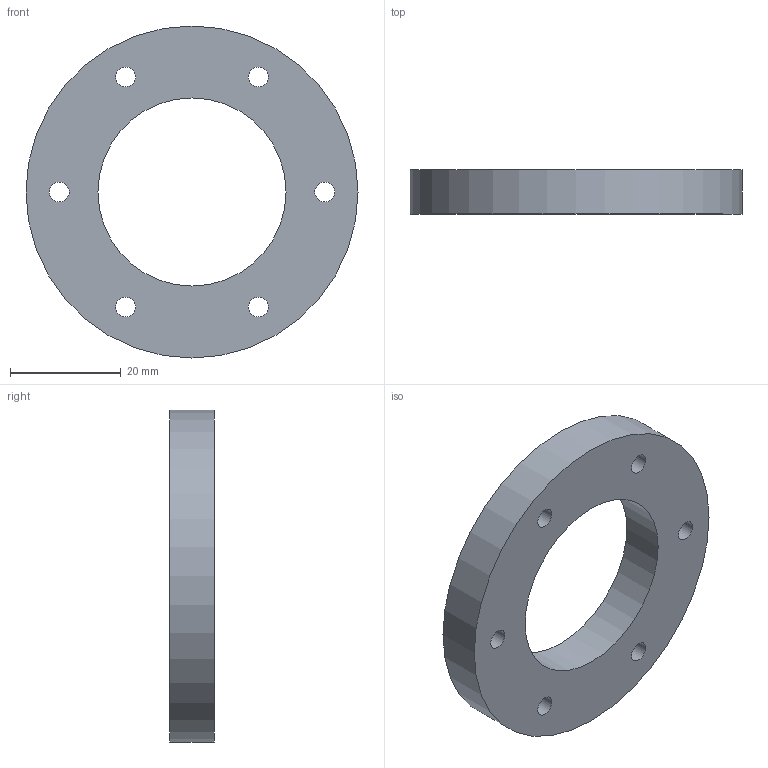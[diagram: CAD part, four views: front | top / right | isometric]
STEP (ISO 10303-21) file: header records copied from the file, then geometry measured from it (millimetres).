
FILE_DESCRIPTION(('Open CASCADE Model'),'2;1');
FILE_NAME('Open CASCADE Shape Model','2026-10-17T16:45:05',('Author'),( 'Open CASCADE'),'Open CASCADE STEP processor 8.0','build123d', 'Unknown');
FILE_SCHEMA(('AUTOMOTIVE_DESIGN { 1 0 10303 214 1 1 1 1 }'));
Length unit declared in the file: millimetre
Products named in the file (1): COMPOUND
Bounding box: 60 x 8 x 60 mm (x, y, z)
Volume: 14867.5 mm3; surface area: 6622.2 mm2
Topology: 1 solids, 1 shells, 10 faces, 24 edges, 16 vertices
Faces by surface type: cylinder 8, plane 2
Full cylindrical faces by diameter (mm): 3.6 x6, 34 x1, 60 x1
Entity records: 654 total; most frequent: DIRECTION 110, CARTESIAN_POINT 99, ORIENTED_EDGE 48, PCURVE 48, DEFINITIONAL_REPRESENTATION 48, LINE 40, VECTOR 40, CIRCLE 32
